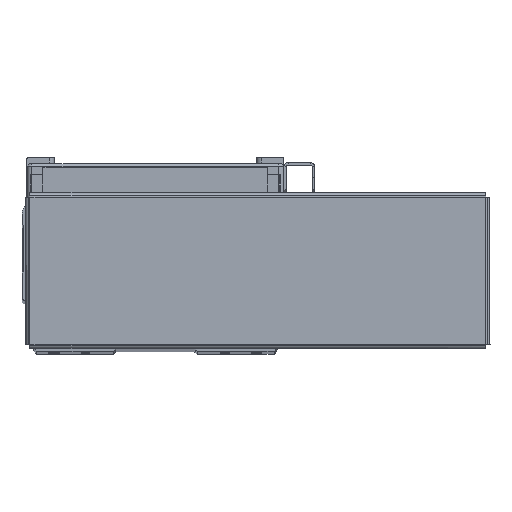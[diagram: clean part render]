
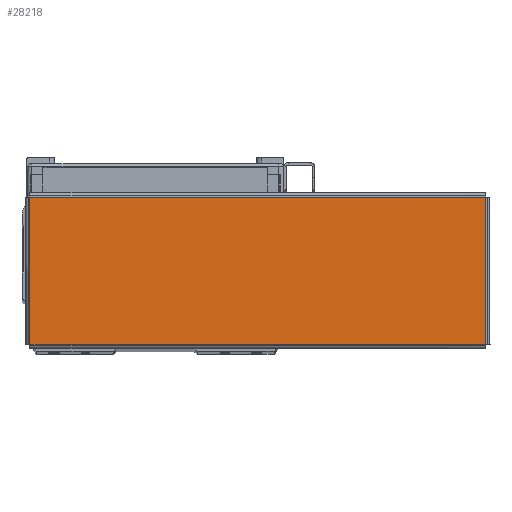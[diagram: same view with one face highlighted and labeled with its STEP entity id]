
A CAD part, top view. The second image highlights one B-rep face of the part: STEP entity #28218.
In plain terms, the highlighted planar face has unit normal (0, 0, 1) as drawn and (0, -1, 0) by its records, which use the part's own axes.
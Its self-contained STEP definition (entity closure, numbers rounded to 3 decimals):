
#3107 = LINE ( 'NONE', #18763, #3120 ) ;
#3116 = VECTOR ( 'NONE', #18699, 1000. ) ;
#3120 = VECTOR ( 'NONE', #18788, 1000. ) ;
#3123 = LINE ( 'NONE', #18847, #3143 ) ;
#3135 = LINE ( 'NONE', #18706, #3116 ) ;
#3143 = VECTOR ( 'NONE', #18815, 1000. ) ;
#3169 = LINE ( 'NONE', #18811, #3216 ) ;
#3216 = VECTOR ( 'NONE', #18813, 1000. ) ;
#14326 = VERTEX_POINT ( 'NONE', #27327 ) ;
#14329 = VERTEX_POINT ( 'NONE', #27320 ) ;
#14360 = VERTEX_POINT ( 'NONE', #27314 ) ;
#14370 = VERTEX_POINT ( 'NONE', #27362 ) ;
#16307 = FACE_OUTER_BOUND ( 'NONE', #19964, .T. ) ;
#18020 = PLANE ( 'NONE',  #44190 ) ;
#18028 = CARTESIAN_POINT ( 'NONE',  ( 0., -1., 0. ) ) ;
#18055 = DIRECTION ( 'NONE',  ( 0., 1., 0. ) ) ;
#18061 = DIRECTION ( 'NONE',  ( 0., 0., 1. ) ) ;
#18699 = DIRECTION ( 'NONE',  ( 1., 0., 0. ) ) ;
#18706 = CARTESIAN_POINT ( 'NONE',  ( -92.293, -1., -29.763 ) ) ;
#18763 = CARTESIAN_POINT ( 'NONE',  ( 92.263, -1., -29.793 ) ) ;
#18788 = DIRECTION ( 'NONE',  ( 0., 0., 1. ) ) ;
#18811 = CARTESIAN_POINT ( 'NONE',  ( -92.263, -1., 29.793 ) ) ;
#18813 = DIRECTION ( 'NONE',  ( 0., 0., -1. ) ) ;
#18815 = DIRECTION ( 'NONE',  ( -1., 0., 0. ) ) ;
#18847 = CARTESIAN_POINT ( 'NONE',  ( 92.293, -1., 29.763 ) ) ;
#19964 = EDGE_LOOP ( 'NONE', ( #62555, #62542, #62569, #62574 ) ) ;
#27314 = CARTESIAN_POINT ( 'NONE',  ( 92.263, -1., -29.763 ) ) ;
#27320 = CARTESIAN_POINT ( 'NONE',  ( -92.263, -1., -29.763 ) ) ;
#27327 = CARTESIAN_POINT ( 'NONE',  ( -92.263, -1., 29.763 ) ) ;
#27362 = CARTESIAN_POINT ( 'NONE',  ( 92.263, -1., 29.763 ) ) ;
#28218 = ADVANCED_FACE ( 'NONE', ( #16307 ), #18020, .F. ) ;
#35985 = EDGE_CURVE ( 'NONE', #14329, #14360, #3135, .T. ) ;
#36004 = EDGE_CURVE ( 'NONE', #14360, #14370, #3107, .T. ) ;
#36015 = EDGE_CURVE ( 'NONE', #14370, #14326, #3123, .T. ) ;
#36022 = EDGE_CURVE ( 'NONE', #14326, #14329, #3169, .T. ) ;
#44190 = AXIS2_PLACEMENT_3D ( 'NONE', #18028, #18055, #18061 ) ;
#62542 = ORIENTED_EDGE ( 'NONE', *, *, #36004, .T. ) ;
#62555 = ORIENTED_EDGE ( 'NONE', *, *, #35985, .T. ) ;
#62569 = ORIENTED_EDGE ( 'NONE', *, *, #36015, .T. ) ;
#62574 = ORIENTED_EDGE ( 'NONE', *, *, #36022, .T. ) ;
